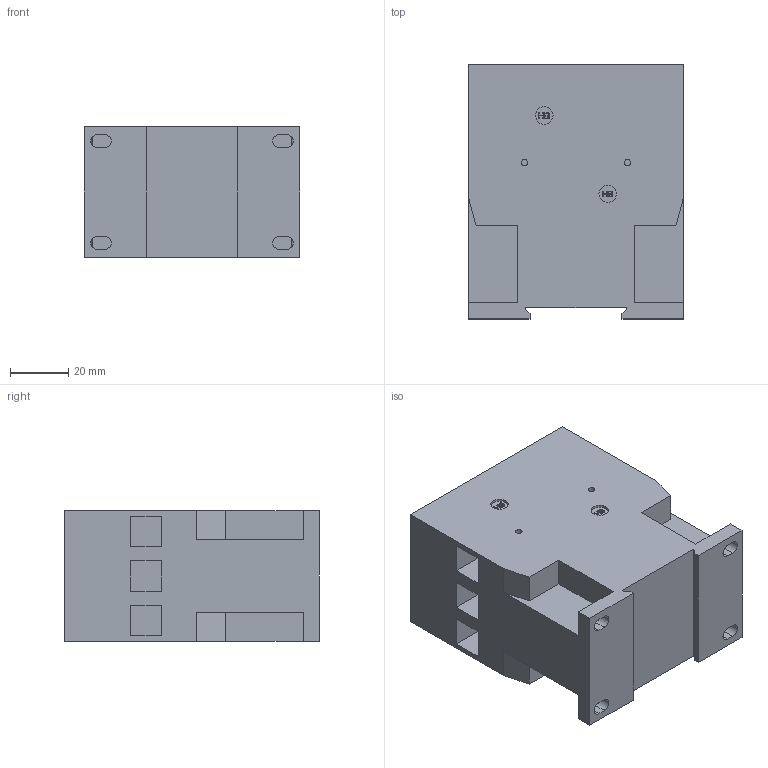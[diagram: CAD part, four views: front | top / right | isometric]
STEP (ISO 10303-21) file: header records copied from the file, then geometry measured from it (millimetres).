
FILE_DESCRIPTION (( 'STEP AP203' ), '1' );
FILE_NAME ('K3-24_32_40.STEP', '2009-07-13T07:22:34', ( 'Gutermuth' ), ( 'Benedict GmbH' ), 'SwSTEP 2.0', 'SolidWorks 2009', '' );
FILE_SCHEMA (( 'CONFIG_CONTROL_DESIGN' ));
Length unit declared in the file: millimetre
Products named in the file (1): K3-24_32_40
Bounding box: 74 x 87.3 x 45 mm (x, y, z)
Volume: 245497.4 mm3; surface area: 37560.1 mm2
Topology: 1 solids, 1 shells, 340 faces, 918 edges, 612 vertices
Faces by surface type: plane 202, bspline 96, cylinder 42
Entity records: 11991 total; most frequent: CARTESIAN_POINT 3899, ORIENTED_EDGE 1836, DIRECTION 1292, EDGE_CURVE 918, LINE 642, VECTOR 642, VERTEX_POINT 612, EDGE_LOOP 396
